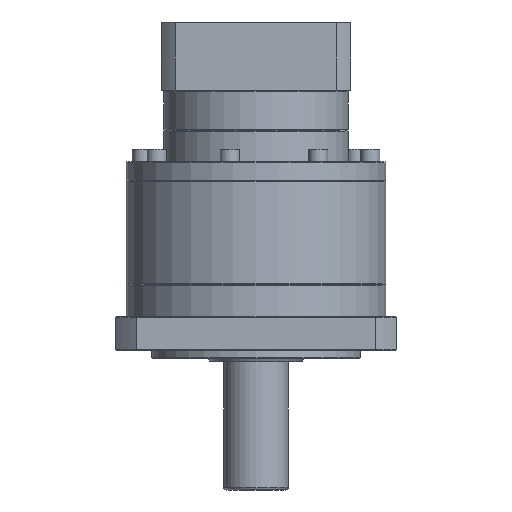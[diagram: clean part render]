
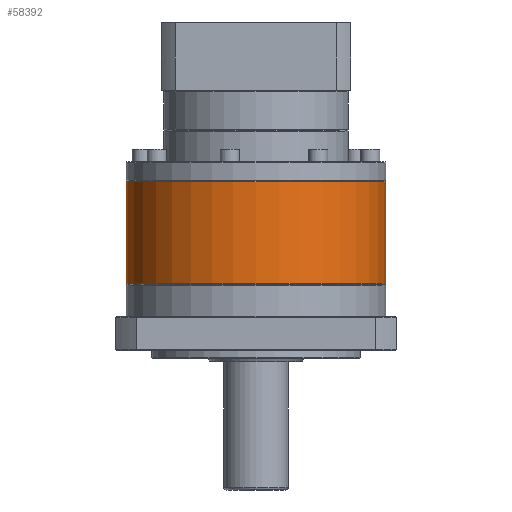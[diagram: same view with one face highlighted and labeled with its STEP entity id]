
A CAD part, front view. The second image highlights one B-rep face of the part: STEP entity #58392.
In plain terms, the highlighted cylindrical face has radius 81 mm (diameter 162 mm), a partial arc.
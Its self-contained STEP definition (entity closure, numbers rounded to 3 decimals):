
#833 = AXIS2_PLACEMENT_3D ( 'NONE', #87690, #1383, #88656 ) ;
#1383 = DIRECTION ( 'NONE',  ( 0., 0., -1. ) ) ;
#5077 = DIRECTION ( 'NONE',  ( 0., 0., 1. ) ) ;
#7158 = CARTESIAN_POINT ( 'NONE',  ( -122.797, 115.251, -79.408 ) ) ;
#17098 = ORIENTED_EDGE ( 'NONE', *, *, #32711, .F. ) ;
#18320 = CARTESIAN_POINT ( 'NONE',  ( -203.797, 115.251, -79.408 ) ) ;
#20679 = CARTESIAN_POINT ( 'NONE',  ( -203.797, 115.251, -78.908 ) ) ;
#23533 = CIRCLE ( 'NONE', #32823, 81. ) ;
#24053 = VERTEX_POINT ( 'NONE', #119309 ) ;
#32711 = EDGE_CURVE ( 'NONE', #102255, #24053, #97337, .T. ) ;
#32823 = AXIS2_PLACEMENT_3D ( 'NONE', #7158, #92969, #115463 ) ;
#33354 = CARTESIAN_POINT ( 'NONE',  ( -203.797, 115.251, -142.908 ) ) ;
#34769 = EDGE_CURVE ( 'NONE', #39124, #24053, #41004, .T. ) ;
#39124 = VERTEX_POINT ( 'NONE', #33354 ) ;
#41004 = CIRCLE ( 'NONE', #121052, 81. ) ;
#50308 = CARTESIAN_POINT ( 'NONE',  ( -122.797, 115.251, -142.908 ) ) ;
#52040 = DIRECTION ( 'NONE',  ( 0., 0., -1. ) ) ;
#53438 = EDGE_LOOP ( 'NONE', ( #17098, #127416, #94280, #130360 ) ) ;
#58392 = ADVANCED_FACE ( 'NONE', ( #75712 ), #135832, .T. ) ;
#61552 = LINE ( 'NONE', #20679, #65035 ) ;
#65035 = VECTOR ( 'NONE', #52040, 1000. ) ;
#75712 = FACE_OUTER_BOUND ( 'NONE', #53438, .T. ) ;
#81569 = EDGE_CURVE ( 'NONE', #82962, #39124, #61552, .T. ) ;
#82962 = VERTEX_POINT ( 'NONE', #18320 ) ;
#87690 = CARTESIAN_POINT ( 'NONE',  ( -122.797, 115.251, -78.908 ) ) ;
#88209 = CARTESIAN_POINT ( 'NONE',  ( -41.797, 115.251, -78.908 ) ) ;
#88656 = DIRECTION ( 'NONE',  ( -1., 0., 0. ) ) ;
#92969 = DIRECTION ( 'NONE',  ( 0., 0., -1. ) ) ;
#94280 = ORIENTED_EDGE ( 'NONE', *, *, #81569, .T. ) ;
#97337 = LINE ( 'NONE', #88209, #141956 ) ;
#102255 = VERTEX_POINT ( 'NONE', #131510 ) ;
#104262 = EDGE_CURVE ( 'NONE', #102255, #82962, #23533, .T. ) ;
#104263 = DIRECTION ( 'NONE',  ( -1., 0., 0. ) ) ;
#115463 = DIRECTION ( 'NONE',  ( -1., 0., 0. ) ) ;
#119309 = CARTESIAN_POINT ( 'NONE',  ( -41.797, 115.251, -142.908 ) ) ;
#121052 = AXIS2_PLACEMENT_3D ( 'NONE', #50308, #5077, #104263 ) ;
#122273 = DIRECTION ( 'NONE',  ( 0., 0., -1. ) ) ;
#127416 = ORIENTED_EDGE ( 'NONE', *, *, #104262, .T. ) ;
#130360 = ORIENTED_EDGE ( 'NONE', *, *, #34769, .T. ) ;
#131510 = CARTESIAN_POINT ( 'NONE',  ( -41.797, 115.251, -79.408 ) ) ;
#135832 = CYLINDRICAL_SURFACE ( 'NONE', #833, 81. ) ;
#141956 = VECTOR ( 'NONE', #122273, 1000. ) ;
